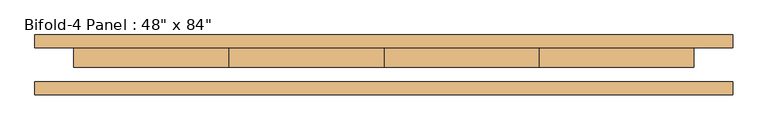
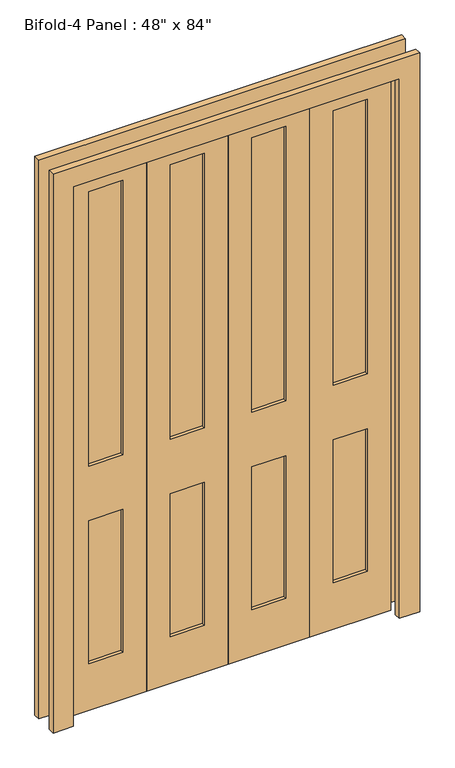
"""IFC4 building model written with IfcOpenShell, lengths in millimetres: door geometry."""

from ifc_helpers import new_model, si_unit, frame, origin, place, context, project, spatial, polyline, outline, extrude, source, transform, mapped, element, save


def door_11fdedde(model_context):
    return source(origin(), model_context, "Body", "SweptSolid", [
        extrude(outline(polyline([(393.7, 20.8), (520.7, 20.8), (520.7, 8.1), (393.7, 8.1), (393.7, 20.8)])), frame((0.0, 0.0, 965.2), z_axis=(0.0, 0.0, 1.0), x_axis=(1.0, 0.0, 0.0)), (0.0, 0.0, 1.0), 1085.85),
        extrude(outline(polyline([(393.7, 20.8), (520.7, 20.8), (520.7, 8.1), (393.7, 8.1), (393.7, 20.8)])), frame((0.0, 0.0, 184.15), z_axis=(0.0, 0.0, 1.0), x_axis=(1.0, 0.0, 0.0)), (0.0, 0.0, 1.0), 565.15),
        extrude(outline(polyline([(88.9, 20.8), (215.9, 20.8), (215.9, 8.1), (88.9, 8.1), (88.9, 20.8)])), frame((0.0, 0.0, 965.2), z_axis=(0.0, 0.0, 1.0), x_axis=(1.0, 0.0, 0.0)), (0.0, 0.0, 1.0), 1085.85),
        extrude(outline(polyline([(88.9, 20.8), (215.9, 20.8), (215.9, 8.1), (88.9, 8.1), (88.9, 20.8)])), frame((0.0, 0.0, 184.15), z_axis=(0.0, 0.0, 1.0), x_axis=(1.0, 0.0, 0.0)), (0.0, 0.0, 1.0), 565.15),
        extrude(outline(polyline([(-215.9, 20.8), (-88.9, 20.8), (-88.9, 8.1), (-215.9, 8.1), (-215.9, 20.8)])), frame((0.0, 0.0, 184.15), z_axis=(0.0, 0.0, 1.0), x_axis=(1.0, 0.0, 0.0)), (0.0, 0.0, 1.0), 565.15),
        extrude(outline(polyline([(-215.9, 20.8), (-88.9, 20.8), (-88.9, 8.1), (-215.9, 8.1), (-215.9, 20.8)])), frame((0.0, 0.0, 965.2), z_axis=(0.0, 0.0, 1.0), x_axis=(1.0, 0.0, 0.0)), (0.0, 0.0, 1.0), 1085.85),
        extrude(outline(polyline([(-520.7, 20.8), (-393.7, 20.8), (-393.7, 8.1), (-520.7, 8.1), (-520.7, 20.8)])), frame((0.0, 0.0, 965.2), z_axis=(0.0, 0.0, 1.0), x_axis=(1.0, 0.0, 0.0)), (0.0, 0.0, 1.0), 1085.85),
        extrude(outline(polyline([(-520.7, 20.8), (-393.7, 20.8), (-393.7, 8.1), (-520.7, 8.1), (-520.7, 20.8)])), frame((0.0, 0.0, 184.15), z_axis=(0.0, 0.0, 1.0), x_axis=(1.0, 0.0, 0.0)), (0.0, 0.0, 1.0), 565.15),
        extrude(outline(polyline([(0.0, 685.8), (2209.8, 685.8), (2209.8, -685.8), (0.0, -685.8), (0.0, -609.6), (2133.6, -609.6), (2133.6, 609.6), (0.0, 609.6), (0.0, 685.8)])), frame((0.0, -58.9, 0.0), z_axis=(0.0, 1.0, 0.0), x_axis=(0.0, 0.0, 1.0)), (0.0, 0.0, 1.0), 25.4),
        extrude(outline(polyline([(0.0, 685.8), (2209.8, 685.8), (2209.8, -685.8), (0.0, -685.8), (0.0, -609.6), (2133.6, -609.6), (2133.6, 609.6), (0.0, 609.6), (0.0, 685.8)])), frame((0.0, 33.5, 0.0), z_axis=(0.0, 1.0, 0.0), x_axis=(0.0, 0.0, 1.0)), (0.0, 0.0, 1.0), 25.4),
        extrude(outline(polyline([(0.0, -609.6), (0.0, -304.8), (2133.6, -304.8), (2133.6, -609.6), (0.0, -609.6)]), holes=[polyline([(2051.05, -520.7), (2051.05, -393.7), (965.2, -393.7), (965.2, -520.7), (2051.05, -520.7)]), polyline([(749.3, -520.7), (749.3, -393.7), (184.15, -393.7), (184.15, -520.7), (749.3, -520.7)])]), frame((0.0, -4.6, 0.0), z_axis=(0.0, 1.0, 0.0), x_axis=(0.0, 0.0, 1.0)), (0.0, 0.0, 1.0), 38.1),
        extrude(outline(polyline([(0.0, -304.8), (0.0, 0.0), (2133.6, 0.0), (2133.6, -304.8), (0.0, -304.8)]), holes=[polyline([(2051.05, -215.9), (2051.05, -88.9), (965.2, -88.9), (965.2, -215.9), (2051.05, -215.9)]), polyline([(749.3, -215.9), (749.3, -88.9), (184.15, -88.9), (184.15, -215.9), (749.3, -215.9)])]), frame((0.0, -4.6, 0.0), z_axis=(0.0, 1.0, 0.0), x_axis=(0.0, 0.0, 1.0)), (0.0, 0.0, 1.0), 38.1),
        extrude(outline(polyline([(0.0, 0.0), (0.0, 304.8), (2133.6, 304.8), (2133.6, 0.0), (0.0, 0.0)]), holes=[polyline([(2051.05, 88.9), (2051.05, 215.9), (965.2, 215.9), (965.2, 88.9), (2051.05, 88.9)]), polyline([(749.3, 88.9), (749.3, 215.9), (184.15, 215.9), (184.15, 88.9), (749.3, 88.9)])]), frame((0.0, -4.6, 0.0), z_axis=(0.0, 1.0, 0.0), x_axis=(0.0, 0.0, 1.0)), (0.0, 0.0, 1.0), 38.1),
        extrude(outline(polyline([(0.0, 304.8), (0.0, 609.6), (2133.6, 609.6), (2133.6, 304.8), (0.0, 304.8)]), holes=[polyline([(2051.05, 393.7), (2051.05, 520.7), (965.2, 520.7), (965.2, 393.7), (2051.05, 393.7)]), polyline([(749.3, 393.7), (749.3, 520.7), (184.15, 520.7), (184.15, 393.7), (749.3, 393.7)])]), frame((0.0, -4.6, 0.0), z_axis=(0.0, 1.0, 0.0), x_axis=(0.0, 0.0, 1.0)), (0.0, 0.0, 1.0), 38.1),
    ])


if __name__ == "__main__":
    model = new_model("IFC4")
    model_context = context("Model", 3, world=origin())
    ifc_project = project(units=[si_unit("LENGTHUNIT", "METRE", prefix="MILLI")], contexts=[model_context])
    site = spatial("IfcSite", under=ifc_project)
    building = spatial("IfcBuilding", under=site)
    placement = place(None, origin())
    door_shape = door_11fdedde(model_context)
    element("IfcDoor", 1, ObjectType="Bifold-4 Panel : 48\" x 84\"", at=placement, inside=building, context=model_context, shape_type="MappedRepresentation", body=[
        mapped(door_shape, transform((0.0, 0.0, 0.0), x_axis=(1.0, 0.0, 0.0), y_axis=(0.0, 1.0, 0.0), z_axis=(0.0, 0.0, 1.0))),
    ])
    save(model, "model.ifc")
